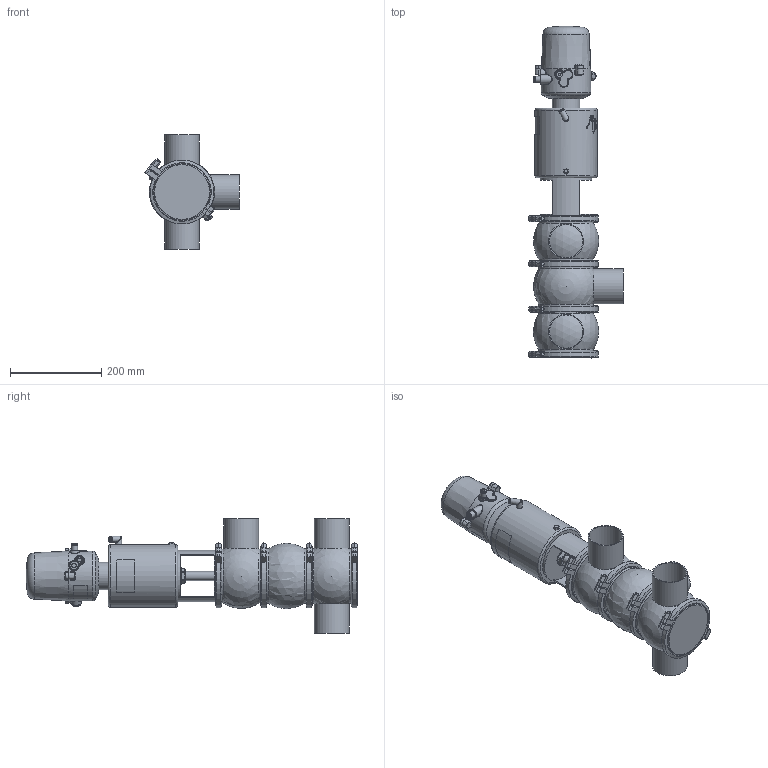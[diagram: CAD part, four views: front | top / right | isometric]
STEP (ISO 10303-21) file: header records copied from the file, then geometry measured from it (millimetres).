
FILE_DESCRIPTION (( 'STEP AP214' ), '1' );
FILE_NAME ('INNOVA L S W OD 3 T3 AS NC & C-TOP S_10.241.16.0058.STEP', '2024-08-06T12:29:19', ( '' ), ( '' ), 'SwSTEP 2.0', 'SolidWorks 2023', '' );
FILE_SCHEMA (( 'AUTOMOTIVE_DESIGN' ));
Length unit declared in the file: millimetre
Products named in the file (9): 10.240.15.0001_DN 080; 10.240.15.0007_OD 3"; 10.240.15.0010_DN 080; INNOVA L S W OD 3 T3 AS NC & C-TOP S_10.241.16.0058; 10.240.15.0017_Estàndard; 10.240.15.0006_OD 3"; 10.240.15.0014_T3 AS P180; 10.241.15.0001_DIN 080; 10.426.15.0001_C-TOP S - 1 EV
Assembly tree (12 placements, depth 2):
  INNOVA L S W OD 3 T3 AS NC & C-TOP S_10.241.16.0058
    10.240.15.0006_OD 3"  x2
    10.240.15.0007_OD 3"
    10.240.15.0010_DN 080
    10.240.15.0014_T3 AS P180
    10.240.15.0017_Estàndard
    10.426.15.0001_C-TOP S - 1 EV
    10.240.15.0001_DN 080  x4
    10.241.15.0001_DIN 080
Bounding box: 206.43 x 726.63 x 250 mm (x, y, z)
Volume: 8386380.9 mm3; surface area: 724607.3 mm2
Topology: 13 solids, 13 shells, 1311 faces, 3193 edges, 2118 vertices
Faces by surface type: plane 478, cylinder 405, cone 221, bspline 160, torus 36, sphere 11
Full cylindrical faces by diameter (mm): 0.371 x17, 0.512 x16, 0.658 x16, 0.795 x16, 0.94 x15, 1.098 x15, 1.241 x13, 1.382 x13, 1.523 x11, 1.669 x10, 2.201 x1, 4 x2, 5.5 x2, 6 x2, 6.15 x1, 8 x10, 8.5 x1, 10 x1, 10.5 x1, 11 x2, 12.5 x3, 13 x2, 13.5 x2, 16 x1, 17 x3, 20 x3, 20.5 x1, 22 x2, 31 x1, 34.5 x3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
Entity records: 58121 total; most frequent: CARTESIAN_POINT 27775, ORIENTED_EDGE 4516, DIRECTION 3677, EDGE_CURVE 2258, VERTEX_POINT 1609, EDGE_LOOP 1579, AXIS2_PLACEMENT_3D 1510, FACE_OUTER_BOUND 1339
